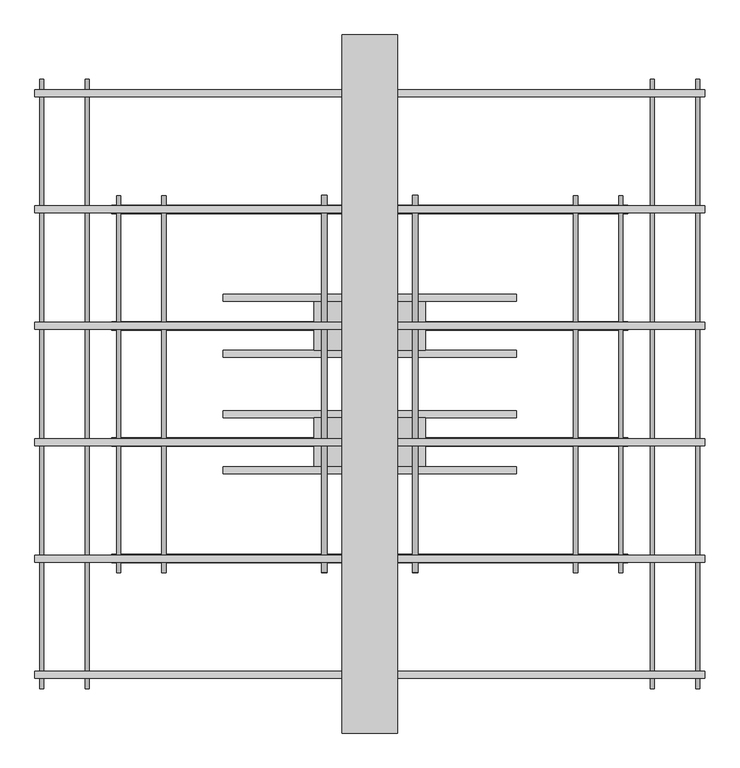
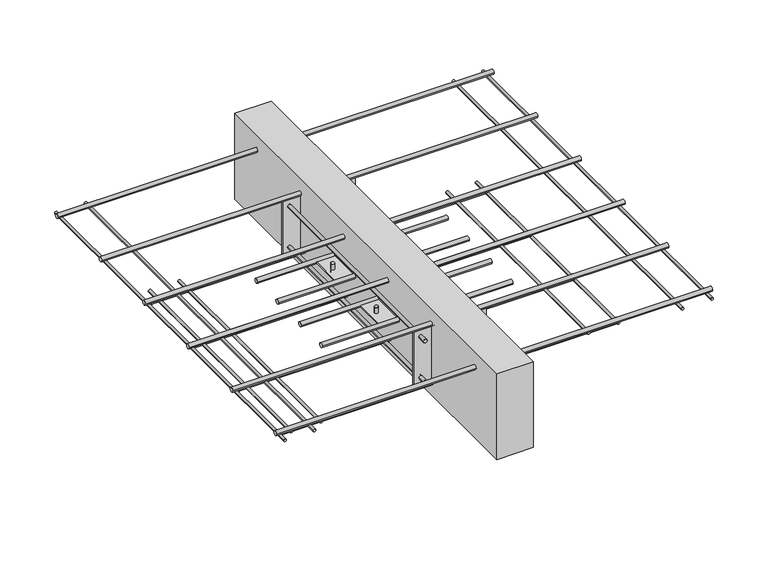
"""IFC4 building model written with IfcOpenShell, lengths in millimetres: fastener geometry, ACINOXplus_Typenreihe_K : KC+ S2."""

from ifc_helpers import new_model, si_unit, point, frame, frame_2d, origin, place, context, project, spatial, polyline, circle_curve, trimmed, segment, composite_curve, outline, extrude, source, transform, mapped, element, save
from ifc_brep_helpers import plane_surface, cylinder_surface, advanced_brep


def fastener_17bfd8a3(model_context):
    return source(origin(), model_context, "Body", "SolidModel", [
        extrude(outline(composite_curve([segment(trimmed(circle_curve(frame_2d((-123.3333333, -102.5)), 5.0), [point((-128.3333333, -102.5))], [point((-118.3333333, -102.5))], False, "CARTESIAN"), True, "CONTINUOUS"), segment(trimmed(circle_curve(frame_2d((-123.3333333, -102.5)), 5.0), [point((-118.3333333, -102.5))], [point((-128.3333333, -102.5))], False, "CARTESIAN"), True, "CONTINUOUS")], self_intersect=False)), frame((-210.0, 0.0, 0.0), z_axis=(1.0, 0.0, 0.0), x_axis=(0.0, 1.0, 0.0)), (0.0, 0.0, 1.0), 420.0),
        extrude(outline(composite_curve([segment(trimmed(circle_curve(frame_2d((-43.3333333, -102.5)), 5.0), [point((-48.3333333, -102.5))], [point((-38.3333333, -102.5))], False, "CARTESIAN"), True, "CONTINUOUS"), segment(trimmed(circle_curve(frame_2d((-43.3333333, -102.5)), 5.0), [point((-38.3333333, -102.5))], [point((-48.3333333, -102.5))], False, "CARTESIAN"), True, "CONTINUOUS")], self_intersect=False)), frame((-210.0, 0.0, 0.0), z_axis=(1.0, 0.0, 0.0), x_axis=(0.0, 1.0, 0.0)), (0.0, 0.0, 1.0), 420.0),
        advanced_brep(
        [(-69.0, -83.3333333, -87.5), (-61.0, -83.3333333, -87.5), (61.0, -83.3333333, -87.5), (69.0, -83.3333333, -87.5), (-69.0, -83.3333333, -117.5), (-61.0, -83.3333333, -117.5), (61.0, -83.3333333, -117.5), (69.0, -83.3333333, -117.5), (-69.0, -83.3333333, -101.0), (-61.0, -83.3333333, -101.0), (-61.0, -83.3333333, -104.0), (-69.0, -83.3333333, -104.0), (61.0, -83.3333333, -101.0), (69.0, -83.3333333, -101.0), (69.0, -83.3333333, -104.0), (61.0, -83.3333333, -104.0), (80.0, -48.3333333, -101.0), (-80.0, -48.3333333, -101.0), (-80.0, -118.3333333, -101.0), (80.0, -118.3333333, -101.0), (80.0, -48.3333333, -104.0), (80.0, -118.3333333, -104.0), (-80.0, -118.3333333, -104.0), (-80.0, -48.3333333, -104.0)],
        [
            (0, 1, circle_curve(frame((-65.0, -83.3333333, -87.5), z_axis=(0.0, 0.0, 1.0), x_axis=(1.0, 0.0, 0.0)), 4.0)),
            (1, 0, circle_curve(frame((-65.0, -83.3333333, -87.5), z_axis=(0.0, 0.0, 1.0), x_axis=(1.0, 0.0, 0.0)), 4.0)),
            (2, 3, circle_curve(frame((65.0, -83.3333333, -87.5), z_axis=(0.0, 0.0, 1.0), x_axis=(1.0, 0.0, 0.0)), 4.0)),
            (3, 2, circle_curve(frame((65.0, -83.3333333, -87.5), z_axis=(0.0, 0.0, 1.0), x_axis=(1.0, 0.0, 0.0)), 4.0)),
            (4, 5, circle_curve(frame((-65.0, -83.3333333, -117.5), z_axis=(0.0, 0.0, -1.0), x_axis=(1.0, 0.0, 0.0)), 4.0)),
            (5, 4, circle_curve(frame((-65.0, -83.3333333, -117.5), z_axis=(0.0, 0.0, -1.0), x_axis=(1.0, 0.0, 0.0)), 4.0)),
            (6, 7, circle_curve(frame((65.0, -83.3333333, -117.5), z_axis=(0.0, 0.0, -1.0), x_axis=(1.0, 0.0, 0.0)), 4.0)),
            (7, 6, circle_curve(frame((65.0, -83.3333333, -117.5), z_axis=(0.0, 0.0, -1.0), x_axis=(1.0, 0.0, 0.0)), 4.0)),
            (0, 8),
            (8, 9, circle_curve(frame((-65.0, -83.3333333, -101.0), z_axis=(0.0, 0.0, 1.0), x_axis=(1.0, 0.0, 0.0)), 4.0)),
            (9, 1),
            (5, 10),
            (10, 11, circle_curve(frame((-65.0, -83.3333333, -104.0), z_axis=(0.0, 0.0, -1.0), x_axis=(1.0, 0.0, 0.0)), 4.0)),
            (11, 4),
            (9, 8, circle_curve(frame((-65.0, -83.3333333, -101.0), z_axis=(0.0, 0.0, 1.0), x_axis=(1.0, 0.0, 0.0)), 4.0)),
            (11, 10, circle_curve(frame((-65.0, -83.3333333, -104.0), z_axis=(0.0, 0.0, -1.0), x_axis=(1.0, 0.0, 0.0)), 4.0)),
            (2, 12),
            (12, 13, circle_curve(frame((65.0, -83.3333333, -101.0), z_axis=(0.0, 0.0, 1.0), x_axis=(1.0, 0.0, 0.0)), 4.0)),
            (13, 3),
            (7, 14),
            (14, 15, circle_curve(frame((65.0, -83.3333333, -104.0), z_axis=(0.0, 0.0, -1.0), x_axis=(1.0, 0.0, 0.0)), 4.0)),
            (15, 6),
            (13, 12, circle_curve(frame((65.0, -83.3333333, -101.0), z_axis=(0.0, 0.0, 1.0), x_axis=(1.0, 0.0, 0.0)), 4.0)),
            (15, 14, circle_curve(frame((65.0, -83.3333333, -104.0), z_axis=(0.0, 0.0, -1.0), x_axis=(1.0, 0.0, 0.0)), 4.0)),
            (16, 17),
            (17, 18),
            (18, 19),
            (19, 16),
            (20, 21),
            (21, 22),
            (22, 23),
            (23, 20),
            (16, 20),
            (23, 17),
            (22, 18),
            (21, 19),
        ],
        [
            plane_surface(frame((-61.0, -83.3333333, -87.5), z_axis=(0.0, 0.0, 1.0), x_axis=(0.0, 1.0, 0.0))),
            plane_surface(frame((-61.0, -83.3333333, -117.5), z_axis=(0.0, 0.0, -1.0), x_axis=(0.0, -1.0, 0.0))),
            cylinder_surface(frame((-65.0, -83.3333333, -117.5), z_axis=(0.0, 0.0, 1.0), x_axis=(1.0, 0.0, 0.0)), 4.0),
            cylinder_surface(frame((65.0, -83.3333333, -102.5), z_axis=(0.0, 0.0, 1.0), x_axis=(1.0, 0.0, 0.0)), 4.0),
            plane_surface(frame((-80.0, -48.3333333, -101.0), z_axis=(0.0, 0.0, 1.0), x_axis=(-1.0, 0.0, 0.0))),
            plane_surface(frame((-80.0, -48.3333333, -104.0), z_axis=(0.0, 0.0, -1.0), x_axis=(1.0, 0.0, 0.0))),
            plane_surface(frame((80.0, -48.3333333, -101.0), z_axis=(0.0, 1.0, 0.0), x_axis=(0.0, 0.0, -1.0))),
            plane_surface(frame((-80.0, -48.3333333, -101.0), z_axis=(-1.0, 0.0, 0.0), x_axis=(0.0, 0.0, -1.0))),
            plane_surface(frame((-80.0, -118.3333333, -101.0), z_axis=(0.0, -1.0, 0.0), x_axis=(0.0, 0.0, -1.0))),
            plane_surface(frame((80.0, -118.3333333, -101.0), z_axis=(1.0, 0.0, 0.0), x_axis=(0.0, 0.0, -1.0))),
        ],
        [
            (0, [[1, 2]]),
            (0, [[3, 4]]),
            (1, [[5, 6]]),
            (1, [[7, 8]]),
            (2, [[-1, 9, 10, 11]]),
            (2, [[-6, 12, 13, 14]]),
            (2, [[-2, -11, 15, -9]]),
            (2, [[-5, -14, 16, -12]]),
            (3, [[-3, 17, 18, 19]]),
            (3, [[-8, 20, 21, 22]]),
            (3, [[-4, -19, 23, -17]]),
            (3, [[-7, -22, 24, -20]]),
            (4, [[25, 26, 27, 28], [-10, -15], [-18, -23]]),
            (5, [[29, 30, 31, 32], [-13, -16], [-21, -24]]),
            (6, [[-25, 33, -32, 34]]),
            (7, [[-26, -34, -31, 35]]),
            (8, [[-27, -35, -30, 36]]),
            (9, [[-28, -36, -29, -33]]),
        ],
    ),
        extrude(outline(composite_curve([segment(trimmed(circle_curve(frame_2d((43.3333333, -102.5)), 5.0), [point((38.3333333, -102.5))], [point((48.3333333, -102.5))], False, "CARTESIAN"), True, "CONTINUOUS"), segment(trimmed(circle_curve(frame_2d((43.3333333, -102.5)), 5.0), [point((48.3333333, -102.5))], [point((38.3333333, -102.5))], False, "CARTESIAN"), True, "CONTINUOUS")], self_intersect=False)), frame((-210.0, 0.0, 0.0), z_axis=(1.0, 0.0, 0.0), x_axis=(0.0, 1.0, 0.0)), (0.0, 0.0, 1.0), 420.0),
        extrude(outline(composite_curve([segment(trimmed(circle_curve(frame_2d((123.3333333, -102.5)), 5.0), [point((118.3333333, -102.5))], [point((128.3333333, -102.5))], False, "CARTESIAN"), True, "CONTINUOUS"), segment(trimmed(circle_curve(frame_2d((123.3333333, -102.5)), 5.0), [point((128.3333333, -102.5))], [point((118.3333333, -102.5))], False, "CARTESIAN"), True, "CONTINUOUS")], self_intersect=False)), frame((-210.0, 0.0, 0.0), z_axis=(1.0, 0.0, 0.0), x_axis=(0.0, 1.0, 0.0)), (0.0, 0.0, 1.0), 420.0),
        advanced_brep(
        [(-69.0, 83.3333333, -87.5), (-61.0, 83.3333333, -87.5), (61.0, 83.3333333, -87.5), (69.0, 83.3333333, -87.5), (-69.0, 83.3333333, -117.5), (-61.0, 83.3333333, -117.5), (61.0, 83.3333333, -117.5), (69.0, 83.3333333, -117.5), (-69.0, 83.3333333, -101.0), (-61.0, 83.3333333, -101.0), (-61.0, 83.3333333, -104.0), (-69.0, 83.3333333, -104.0), (61.0, 83.3333333, -101.0), (69.0, 83.3333333, -101.0), (69.0, 83.3333333, -104.0), (61.0, 83.3333333, -104.0), (80.0, 118.3333333, -101.0), (-80.0, 118.3333333, -101.0), (-80.0, 48.3333333, -101.0), (80.0, 48.3333333, -101.0), (80.0, 118.3333333, -104.0), (80.0, 48.3333333, -104.0), (-80.0, 48.3333333, -104.0), (-80.0, 118.3333333, -104.0)],
        [
            (0, 1, circle_curve(frame((-65.0, 83.3333333, -87.5), z_axis=(0.0, 0.0, 1.0), x_axis=(1.0, 0.0, 0.0)), 4.0)),
            (1, 0, circle_curve(frame((-65.0, 83.3333333, -87.5), z_axis=(0.0, 0.0, 1.0), x_axis=(1.0, 0.0, 0.0)), 4.0)),
            (2, 3, circle_curve(frame((65.0, 83.3333333, -87.5), z_axis=(0.0, 0.0, 1.0), x_axis=(1.0, 0.0, 0.0)), 4.0)),
            (3, 2, circle_curve(frame((65.0, 83.3333333, -87.5), z_axis=(0.0, 0.0, 1.0), x_axis=(1.0, 0.0, 0.0)), 4.0)),
            (4, 5, circle_curve(frame((-65.0, 83.3333333, -117.5), z_axis=(0.0, 0.0, -1.0), x_axis=(1.0, 0.0, 0.0)), 4.0)),
            (5, 4, circle_curve(frame((-65.0, 83.3333333, -117.5), z_axis=(0.0, 0.0, -1.0), x_axis=(1.0, 0.0, 0.0)), 4.0)),
            (6, 7, circle_curve(frame((65.0, 83.3333333, -117.5), z_axis=(0.0, 0.0, -1.0), x_axis=(1.0, 0.0, 0.0)), 4.0)),
            (7, 6, circle_curve(frame((65.0, 83.3333333, -117.5), z_axis=(0.0, 0.0, -1.0), x_axis=(1.0, 0.0, 0.0)), 4.0)),
            (0, 8),
            (8, 9, circle_curve(frame((-65.0, 83.3333333, -101.0), z_axis=(0.0, 0.0, 1.0), x_axis=(1.0, 0.0, 0.0)), 4.0)),
            (9, 1),
            (5, 10),
            (10, 11, circle_curve(frame((-65.0, 83.3333333, -104.0), z_axis=(0.0, 0.0, -1.0), x_axis=(1.0, 0.0, 0.0)), 4.0)),
            (11, 4),
            (9, 8, circle_curve(frame((-65.0, 83.3333333, -101.0), z_axis=(0.0, 0.0, 1.0), x_axis=(1.0, 0.0, 0.0)), 4.0)),
            (11, 10, circle_curve(frame((-65.0, 83.3333333, -104.0), z_axis=(0.0, 0.0, -1.0), x_axis=(1.0, 0.0, 0.0)), 4.0)),
            (2, 12),
            (12, 13, circle_curve(frame((65.0, 83.3333333, -101.0), z_axis=(0.0, 0.0, 1.0), x_axis=(1.0, 0.0, 0.0)), 4.0)),
            (13, 3),
            (7, 14),
            (14, 15, circle_curve(frame((65.0, 83.3333333, -104.0), z_axis=(0.0, 0.0, -1.0), x_axis=(1.0, 0.0, 0.0)), 4.0)),
            (15, 6),
            (13, 12, circle_curve(frame((65.0, 83.3333333, -101.0), z_axis=(0.0, 0.0, 1.0), x_axis=(1.0, 0.0, 0.0)), 4.0)),
            (15, 14, circle_curve(frame((65.0, 83.3333333, -104.0), z_axis=(0.0, 0.0, -1.0), x_axis=(1.0, 0.0, 0.0)), 4.0)),
            (16, 17),
            (17, 18),
            (18, 19),
            (19, 16),
            (20, 21),
            (21, 22),
            (22, 23),
            (23, 20),
            (16, 20),
            (23, 17),
            (22, 18),
            (21, 19),
        ],
        [
            plane_surface(frame((-61.0, 83.3333333, -87.5), z_axis=(0.0, 0.0, 1.0), x_axis=(0.0, 1.0, 0.0))),
            plane_surface(frame((-61.0, 83.3333333, -117.5), z_axis=(0.0, 0.0, -1.0), x_axis=(0.0, -1.0, 0.0))),
            cylinder_surface(frame((-65.0, 83.3333333, -117.5), z_axis=(0.0, 0.0, 1.0), x_axis=(1.0, 0.0, 0.0)), 4.0),
            cylinder_surface(frame((65.0, 83.3333333, -102.5), z_axis=(0.0, 0.0, 1.0), x_axis=(1.0, 0.0, 0.0)), 4.0),
            plane_surface(frame((-80.0, 118.3333333, -101.0), z_axis=(0.0, 0.0, 1.0), x_axis=(-1.0, 0.0, 0.0))),
            plane_surface(frame((-80.0, 118.3333333, -104.0), z_axis=(0.0, 0.0, -1.0), x_axis=(1.0, 0.0, 0.0))),
            plane_surface(frame((80.0, 118.3333333, -101.0), z_axis=(0.0, 1.0, 0.0), x_axis=(0.0, 0.0, -1.0))),
            plane_surface(frame((-80.0, 118.3333333, -101.0), z_axis=(-1.0, 0.0, 0.0), x_axis=(0.0, 0.0, -1.0))),
            plane_surface(frame((-80.0, 48.3333333, -101.0), z_axis=(0.0, -1.0, 0.0), x_axis=(0.0, 0.0, -1.0))),
            plane_surface(frame((80.0, 48.3333333, -101.0), z_axis=(1.0, 0.0, 0.0), x_axis=(0.0, 0.0, -1.0))),
        ],
        [
            (0, [[1, 2]]),
            (0, [[3, 4]]),
            (1, [[5, 6]]),
            (1, [[7, 8]]),
            (2, [[-1, 9, 10, 11]]),
            (2, [[-6, 12, 13, 14]]),
            (2, [[-2, -11, 15, -9]]),
            (2, [[-5, -14, 16, -12]]),
            (3, [[-3, 17, 18, 19]]),
            (3, [[-8, 20, 21, 22]]),
            (3, [[-4, -19, 23, -17]]),
            (3, [[-7, -22, 24, -20]]),
            (4, [[25, 26, 27, 28], [-10, -15], [-18, -23]]),
            (5, [[29, 30, 31, 32], [-13, -16], [-21, -24]]),
            (6, [[-25, 33, -32, 34]]),
            (7, [[-26, -34, -31, 35]]),
            (8, [[-27, -35, -30, 36]]),
            (9, [[-28, -36, -29, -33]]),
        ],
    ),
        extrude(outline(polyline([(40.0, 500.0), (40.0, -500.0), (-40.0, -500.0), (-40.0, 500.0), (40.0, 500.0)])), frame((0.0, 0.0, -200.0), z_axis=(0.0, 0.0, 1.0), x_axis=(1.0, 0.0, 0.0)), (0.0, 0.0, 1.0), 200.0),
        extrude(outline(polyline([(80.0, -248.5), (80.0, -251.5), (-80.0, -251.5), (-80.0, -248.5), (80.0, -248.5)])), frame((0.0, 0.0, -165.0), z_axis=(0.0, 0.0, 1.0), x_axis=(1.0, 0.0, 0.0)), (0.0, 0.0, 1.0), 125.0),
        extrude(outline(polyline([(80.0, 251.5), (80.0, 248.5), (-80.0, 248.5), (-80.0, 251.5), (80.0, 251.5)])), frame((0.0, 0.0, -165.0), z_axis=(0.0, 0.0, 1.0), x_axis=(1.0, 0.0, 0.0)), (0.0, 0.0, 1.0), 125.0),
        extrude(outline(composite_curve([segment(trimmed(circle_curve(frame_2d((-150.0, -65.0)), 4.0), [point((-150.0, -61.0))], [point((-150.0, -69.0))], False, "CARTESIAN"), True, "CONTINUOUS"), segment(trimmed(circle_curve(frame_2d((-150.0, -65.0)), 4.0), [point((-150.0, -69.0))], [point((-150.0, -61.0))], False, "CARTESIAN"), True, "CONTINUOUS")], self_intersect=False)), frame((0.0, -270.0, 0.0), z_axis=(0.0, 1.0, 0.0), x_axis=(0.0, 0.0, 1.0)), (0.0, 0.0, 1.0), 18.5),
        extrude(outline(composite_curve([segment(trimmed(circle_curve(frame_2d((-150.0, -65.0)), 4.0), [point((-150.0, -69.0))], [point((-150.0, -61.0))], False, "CARTESIAN"), True, "CONTINUOUS"), segment(trimmed(circle_curve(frame_2d((-150.0, -65.0)), 4.0), [point((-150.0, -61.0))], [point((-150.0, -69.0))], False, "CARTESIAN"), True, "CONTINUOUS")], self_intersect=False)), frame((0.0, -248.5, 0.0), z_axis=(0.0, 1.0, 0.0), x_axis=(0.0, 0.0, 1.0)), (0.0, 0.0, 1.0), 497.0),
        extrude(outline(composite_curve([segment(trimmed(circle_curve(frame_2d((-150.0, -65.0)), 4.0), [point((-150.0, -69.0))], [point((-150.0, -61.0))], False, "CARTESIAN"), True, "CONTINUOUS"), segment(trimmed(circle_curve(frame_2d((-150.0, -65.0)), 4.0), [point((-150.0, -61.0))], [point((-150.0, -69.0))], False, "CARTESIAN"), True, "CONTINUOUS")], self_intersect=False)), frame((0.0, 251.5, 0.0), z_axis=(0.0, 1.0, 0.0), x_axis=(0.0, 0.0, 1.0)), (0.0, 0.0, 1.0), 18.5),
        extrude(outline(composite_curve([segment(trimmed(circle_curve(frame_2d((-150.0, 65.0)), 4.0), [point((-150.0, 69.0))], [point((-150.0, 61.0))], False, "CARTESIAN"), True, "CONTINUOUS"), segment(trimmed(circle_curve(frame_2d((-150.0, 65.0)), 4.0), [point((-150.0, 61.0))], [point((-150.0, 69.0))], False, "CARTESIAN"), True, "CONTINUOUS")], self_intersect=False)), frame((0.0, -270.0, 0.0), z_axis=(0.0, 1.0, 0.0), x_axis=(0.0, 0.0, 1.0)), (0.0, 0.0, 1.0), 18.5),
        extrude(outline(composite_curve([segment(trimmed(circle_curve(frame_2d((-150.0, 65.0)), 4.0), [point((-150.0, 61.0))], [point((-150.0, 69.0))], False, "CARTESIAN"), True, "CONTINUOUS"), segment(trimmed(circle_curve(frame_2d((-150.0, 65.0)), 4.0), [point((-150.0, 69.0))], [point((-150.0, 61.0))], False, "CARTESIAN"), True, "CONTINUOUS")], self_intersect=False)), frame((0.0, -248.5, 0.0), z_axis=(0.0, 1.0, 0.0), x_axis=(0.0, 0.0, 1.0)), (0.0, 0.0, 1.0), 497.0),
        extrude(outline(composite_curve([segment(trimmed(circle_curve(frame_2d((-150.0, 65.0)), 4.0), [point((-150.0, 61.0))], [point((-150.0, 69.0))], False, "CARTESIAN"), True, "CONTINUOUS"), segment(trimmed(circle_curve(frame_2d((-150.0, 65.0)), 4.0), [point((-150.0, 69.0))], [point((-150.0, 61.0))], False, "CARTESIAN"), True, "CONTINUOUS")], self_intersect=False)), frame((0.0, 251.5, 0.0), z_axis=(0.0, 1.0, 0.0), x_axis=(0.0, 0.0, 1.0)), (0.0, 0.0, 1.0), 18.5),
        extrude(outline(composite_curve([segment(trimmed(circle_curve(frame_2d((-55.0, -65.0)), 4.0), [point((-55.0, -61.0))], [point((-55.0, -69.0))], False, "CARTESIAN"), True, "CONTINUOUS"), segment(trimmed(circle_curve(frame_2d((-55.0, -65.0)), 4.0), [point((-55.0, -69.0))], [point((-55.0, -61.0))], False, "CARTESIAN"), True, "CONTINUOUS")], self_intersect=False)), frame((0.0, -270.0, 0.0), z_axis=(0.0, 1.0, 0.0), x_axis=(0.0, 0.0, 1.0)), (0.0, 0.0, 1.0), 18.5),
        extrude(outline(composite_curve([segment(trimmed(circle_curve(frame_2d((-55.0, -65.0)), 4.0), [point((-55.0, -69.0))], [point((-55.0, -61.0))], False, "CARTESIAN"), True, "CONTINUOUS"), segment(trimmed(circle_curve(frame_2d((-55.0, -65.0)), 4.0), [point((-55.0, -61.0))], [point((-55.0, -69.0))], False, "CARTESIAN"), True, "CONTINUOUS")], self_intersect=False)), frame((0.0, -248.5, 0.0), z_axis=(0.0, 1.0, 0.0), x_axis=(0.0, 0.0, 1.0)), (0.0, 0.0, 1.0), 497.0),
        extrude(outline(composite_curve([segment(trimmed(circle_curve(frame_2d((-55.0, -65.0)), 4.0), [point((-55.0, -69.0))], [point((-55.0, -61.0))], False, "CARTESIAN"), True, "CONTINUOUS"), segment(trimmed(circle_curve(frame_2d((-55.0, -65.0)), 4.0), [point((-55.0, -61.0))], [point((-55.0, -69.0))], False, "CARTESIAN"), True, "CONTINUOUS")], self_intersect=False)), frame((0.0, 251.5, 0.0), z_axis=(0.0, 1.0, 0.0), x_axis=(0.0, 0.0, 1.0)), (0.0, 0.0, 1.0), 18.5),
        extrude(outline(composite_curve([segment(trimmed(circle_curve(frame_2d((-55.0, 65.0)), 4.0), [point((-55.0, 69.0))], [point((-55.0, 61.0))], False, "CARTESIAN"), True, "CONTINUOUS"), segment(trimmed(circle_curve(frame_2d((-55.0, 65.0)), 4.0), [point((-55.0, 61.0))], [point((-55.0, 69.0))], False, "CARTESIAN"), True, "CONTINUOUS")], self_intersect=False)), frame((0.0, -270.0, 0.0), z_axis=(0.0, 1.0, 0.0), x_axis=(0.0, 0.0, 1.0)), (0.0, 0.0, 1.0), 18.5),
        extrude(outline(composite_curve([segment(trimmed(circle_curve(frame_2d((-55.0, 65.0)), 4.0), [point((-55.0, 61.0))], [point((-55.0, 69.0))], False, "CARTESIAN"), True, "CONTINUOUS"), segment(trimmed(circle_curve(frame_2d((-55.0, 65.0)), 4.0), [point((-55.0, 69.0))], [point((-55.0, 61.0))], False, "CARTESIAN"), True, "CONTINUOUS")], self_intersect=False)), frame((0.0, -248.5, 0.0), z_axis=(0.0, 1.0, 0.0), x_axis=(0.0, 0.0, 1.0)), (0.0, 0.0, 1.0), 497.0),
        extrude(outline(composite_curve([segment(trimmed(circle_curve(frame_2d((-55.0, 65.0)), 4.0), [point((-55.0, 61.0))], [point((-55.0, 69.0))], False, "CARTESIAN"), True, "CONTINUOUS"), segment(trimmed(circle_curve(frame_2d((-55.0, 65.0)), 4.0), [point((-55.0, 69.0))], [point((-55.0, 61.0))], False, "CARTESIAN"), True, "CONTINUOUS")], self_intersect=False)), frame((0.0, 251.5, 0.0), z_axis=(0.0, 1.0, 0.0), x_axis=(0.0, 0.0, 1.0)), (0.0, 0.0, 1.0), 18.5),
        extrude(outline(composite_curve([segment(trimmed(circle_curve(frame_2d((83.3333333, -171.0)), 6.0), [point((77.3333333, -171.0))], [point((89.3333333, -171.0))], False, "CARTESIAN"), True, "CONTINUOUS"), segment(trimmed(circle_curve(frame_2d((83.3333333, -171.0)), 6.0), [point((89.3333333, -171.0))], [point((77.3333333, -171.0))], False, "CARTESIAN"), True, "CONTINUOUS")], self_intersect=False)), frame((-370.0, 0.0, 0.0), z_axis=(1.0, 0.0, 0.0), x_axis=(0.0, 1.0, 0.0)), (0.0, 0.0, 1.0), 740.0),
        extrude(outline(composite_curve([segment(trimmed(circle_curve(frame_2d((-83.3333333, -171.0)), 6.0), [point((-89.3333333, -171.0))], [point((-77.3333333, -171.0))], False, "CARTESIAN"), True, "CONTINUOUS"), segment(trimmed(circle_curve(frame_2d((-83.3333333, -171.0)), 6.0), [point((-77.3333333, -171.0))], [point((-89.3333333, -171.0))], False, "CARTESIAN"), True, "CONTINUOUS")], self_intersect=False)), frame((-370.0, 0.0, 0.0), z_axis=(1.0, 0.0, 0.0), x_axis=(0.0, 1.0, 0.0)), (0.0, 0.0, 1.0), 740.0),
        extrude(outline(composite_curve([segment(trimmed(circle_curve(frame_2d((250.0, -171.0)), 6.0), [point((244.0, -171.0))], [point((256.0, -171.0))], False, "CARTESIAN"), True, "CONTINUOUS"), segment(trimmed(circle_curve(frame_2d((250.0, -171.0)), 6.0), [point((256.0, -171.0))], [point((244.0, -171.0))], False, "CARTESIAN"), True, "CONTINUOUS")], self_intersect=False)), frame((-370.0, 0.0, 0.0), z_axis=(1.0, 0.0, 0.0), x_axis=(0.0, 1.0, 0.0)), (0.0, 0.0, 1.0), 740.0),
        extrude(outline(composite_curve([segment(trimmed(circle_curve(frame_2d((-250.0, -171.0)), 6.0), [point((-256.0, -171.0))], [point((-244.0, -171.0))], False, "CARTESIAN"), True, "CONTINUOUS"), segment(trimmed(circle_curve(frame_2d((-250.0, -171.0)), 6.0), [point((-244.0, -171.0))], [point((-256.0, -171.0))], False, "CARTESIAN"), True, "CONTINUOUS")], self_intersect=False)), frame((-370.0, 0.0, 0.0), z_axis=(1.0, 0.0, 0.0), x_axis=(0.0, 1.0, 0.0)), (0.0, 0.0, 1.0), 740.0),
        extrude(outline(composite_curve([segment(trimmed(circle_curve(frame_2d((83.3333333, -35.0)), 5.0), [point((78.3333333, -35.0))], [point((88.3333333, -35.0))], False, "CARTESIAN"), True, "CONTINUOUS"), segment(trimmed(circle_curve(frame_2d((83.3333333, -35.0)), 5.0), [point((88.3333333, -35.0))], [point((78.3333333, -35.0))], False, "CARTESIAN"), True, "CONTINUOUS")], self_intersect=False)), frame((-480.0, 0.0, 0.0), z_axis=(1.0, 0.0, 0.0), x_axis=(0.0, 1.0, 0.0)), (0.0, 0.0, 1.0), 960.0),
        extrude(outline(composite_curve([segment(trimmed(circle_curve(frame_2d((-83.3333333, -35.0)), 5.0), [point((-88.3333333, -35.0))], [point((-78.3333333, -35.0))], False, "CARTESIAN"), True, "CONTINUOUS"), segment(trimmed(circle_curve(frame_2d((-83.3333333, -35.0)), 5.0), [point((-78.3333333, -35.0))], [point((-88.3333333, -35.0))], False, "CARTESIAN"), True, "CONTINUOUS")], self_intersect=False)), frame((-480.0, 0.0, 0.0), z_axis=(1.0, 0.0, 0.0), x_axis=(0.0, 1.0, 0.0)), (0.0, 0.0, 1.0), 960.0),
        extrude(outline(composite_curve([segment(trimmed(circle_curve(frame_2d((250.0, -35.0)), 5.0), [point((245.0, -35.0))], [point((255.0, -35.0))], False, "CARTESIAN"), True, "CONTINUOUS"), segment(trimmed(circle_curve(frame_2d((250.0, -35.0)), 5.0), [point((255.0, -35.0))], [point((245.0, -35.0))], False, "CARTESIAN"), True, "CONTINUOUS")], self_intersect=False)), frame((-480.0, 0.0, 0.0), z_axis=(1.0, 0.0, 0.0), x_axis=(0.0, 1.0, 0.0)), (0.0, 0.0, 1.0), 960.0),
        extrude(outline(composite_curve([segment(trimmed(circle_curve(frame_2d((416.6666667, -35.0)), 5.0), [point((411.6666667, -35.0))], [point((421.6666667, -35.0))], False, "CARTESIAN"), True, "CONTINUOUS"), segment(trimmed(circle_curve(frame_2d((416.6666667, -35.0)), 5.0), [point((421.6666667, -35.0))], [point((411.6666667, -35.0))], False, "CARTESIAN"), True, "CONTINUOUS")], self_intersect=False)), frame((-480.0, 0.0, 0.0), z_axis=(1.0, 0.0, 0.0), x_axis=(0.0, 1.0, 0.0)), (0.0, 0.0, 1.0), 960.0),
        extrude(outline(composite_curve([segment(trimmed(circle_curve(frame_2d((-250.0, -35.0)), 5.0), [point((-255.0, -35.0))], [point((-245.0, -35.0))], False, "CARTESIAN"), True, "CONTINUOUS"), segment(trimmed(circle_curve(frame_2d((-250.0, -35.0)), 5.0), [point((-245.0, -35.0))], [point((-255.0, -35.0))], False, "CARTESIAN"), True, "CONTINUOUS")], self_intersect=False)), frame((-480.0, 0.0, 0.0), z_axis=(1.0, 0.0, 0.0), x_axis=(0.0, 1.0, 0.0)), (0.0, 0.0, 1.0), 960.0),
        extrude(outline(composite_curve([segment(trimmed(circle_curve(frame_2d((-416.6666667, -35.0)), 5.0), [point((-421.6666667, -35.0))], [point((-411.6666667, -35.0))], False, "CARTESIAN"), True, "CONTINUOUS"), segment(trimmed(circle_curve(frame_2d((-416.6666667, -35.0)), 5.0), [point((-411.6666667, -35.0))], [point((-421.6666667, -35.0))], False, "CARTESIAN"), True, "CONTINUOUS")], self_intersect=False)), frame((-480.0, 0.0, 0.0), z_axis=(1.0, 0.0, 0.0), x_axis=(0.0, 1.0, 0.0)), (0.0, 0.0, 1.0), 960.0),
        extrude(outline(composite_curve([segment(trimmed(circle_curve(frame_2d((-162.0, -360.0)), 3.0), [point((-162.0, -357.0))], [point((-162.0, -363.0))], False, "CARTESIAN"), True, "CONTINUOUS"), segment(trimmed(circle_curve(frame_2d((-162.0, -360.0)), 3.0), [point((-162.0, -363.0))], [point((-162.0, -357.0))], False, "CARTESIAN"), True, "CONTINUOUS")], self_intersect=False)), frame((0.0, -270.0, 0.0), z_axis=(0.0, 1.0, 0.0), x_axis=(0.0, 0.0, 1.0)), (0.0, 0.0, 1.0), 540.0),
        extrude(outline(composite_curve([segment(trimmed(circle_curve(frame_2d((-162.0, -295.0)), 3.0), [point((-162.0, -292.0))], [point((-162.0, -298.0))], False, "CARTESIAN"), True, "CONTINUOUS"), segment(trimmed(circle_curve(frame_2d((-162.0, -295.0)), 3.0), [point((-162.0, -298.0))], [point((-162.0, -292.0))], False, "CARTESIAN"), True, "CONTINUOUS")], self_intersect=False)), frame((0.0, -270.0, 0.0), z_axis=(0.0, 1.0, 0.0), x_axis=(0.0, 0.0, 1.0)), (0.0, 0.0, 1.0), 540.0),
        extrude(outline(composite_curve([segment(trimmed(circle_curve(frame_2d((-162.0, 295.0)), 3.0), [point((-162.0, 298.0))], [point((-162.0, 292.0))], False, "CARTESIAN"), True, "CONTINUOUS"), segment(trimmed(circle_curve(frame_2d((-162.0, 295.0)), 3.0), [point((-162.0, 292.0))], [point((-162.0, 298.0))], False, "CARTESIAN"), True, "CONTINUOUS")], self_intersect=False)), frame((0.0, -270.0, 0.0), z_axis=(0.0, 1.0, 0.0), x_axis=(0.0, 0.0, 1.0)), (0.0, 0.0, 1.0), 540.0),
        extrude(outline(composite_curve([segment(trimmed(circle_curve(frame_2d((-162.0, 360.0)), 3.0), [point((-162.0, 363.0))], [point((-162.0, 357.0))], False, "CARTESIAN"), True, "CONTINUOUS"), segment(trimmed(circle_curve(frame_2d((-162.0, 360.0)), 3.0), [point((-162.0, 357.0))], [point((-162.0, 363.0))], False, "CARTESIAN"), True, "CONTINUOUS")], self_intersect=False)), frame((0.0, -270.0, 0.0), z_axis=(0.0, 1.0, 0.0), x_axis=(0.0, 0.0, 1.0)), (0.0, 0.0, 1.0), 540.0),
        extrude(outline(composite_curve([segment(trimmed(circle_curve(frame_2d((-43.0, 405.0)), 3.0), [point((-43.0, 408.0))], [point((-43.0, 402.0))], False, "CARTESIAN"), True, "CONTINUOUS"), segment(trimmed(circle_curve(frame_2d((-43.0, 405.0)), 3.0), [point((-43.0, 402.0))], [point((-43.0, 408.0))], False, "CARTESIAN"), True, "CONTINUOUS")], self_intersect=False)), frame((0.0, -436.6666667, 0.0), z_axis=(0.0, 1.0, 0.0), x_axis=(0.0, 0.0, 1.0)), (0.0, 0.0, 1.0), 873.3333333),
        extrude(outline(composite_curve([segment(trimmed(circle_curve(frame_2d((-43.0, 470.0)), 3.0), [point((-43.0, 473.0))], [point((-43.0, 467.0))], False, "CARTESIAN"), True, "CONTINUOUS"), segment(trimmed(circle_curve(frame_2d((-43.0, 470.0)), 3.0), [point((-43.0, 467.0))], [point((-43.0, 473.0))], False, "CARTESIAN"), True, "CONTINUOUS")], self_intersect=False)), frame((0.0, -436.6666667, 0.0), z_axis=(0.0, 1.0, 0.0), x_axis=(0.0, 0.0, 1.0)), (0.0, 0.0, 1.0), 873.3333333),
        extrude(outline(composite_curve([segment(trimmed(circle_curve(frame_2d((-43.0, -470.0)), 3.0), [point((-43.0, -467.0))], [point((-43.0, -473.0))], False, "CARTESIAN"), True, "CONTINUOUS"), segment(trimmed(circle_curve(frame_2d((-43.0, -470.0)), 3.0), [point((-43.0, -473.0))], [point((-43.0, -467.0))], False, "CARTESIAN"), True, "CONTINUOUS")], self_intersect=False)), frame((0.0, -436.6666667, 0.0), z_axis=(0.0, 1.0, 0.0), x_axis=(0.0, 0.0, 1.0)), (0.0, 0.0, 1.0), 873.3333333),
        extrude(outline(composite_curve([segment(trimmed(circle_curve(frame_2d((-43.0, -405.0)), 3.0), [point((-43.0, -402.0))], [point((-43.0, -408.0))], False, "CARTESIAN"), True, "CONTINUOUS"), segment(trimmed(circle_curve(frame_2d((-43.0, -405.0)), 3.0), [point((-43.0, -408.0))], [point((-43.0, -402.0))], False, "CARTESIAN"), True, "CONTINUOUS")], self_intersect=False)), frame((0.0, -436.6666667, 0.0), z_axis=(0.0, 1.0, 0.0), x_axis=(0.0, 0.0, 1.0)), (0.0, 0.0, 1.0), 873.3333333),
    ])


if __name__ == "__main__":
    model = new_model("IFC4")
    model_context = context("Model", 3, world=origin())
    ifc_project = project(units=[si_unit("LENGTHUNIT", "METRE", prefix="MILLI")], contexts=[model_context])
    site = spatial("IfcSite", under=ifc_project)
    building = spatial("IfcBuilding", under=site)
    placement = place(None, origin())
    fastener_shape = fastener_17bfd8a3(model_context)
    element("IfcFastener", 1, ObjectType="ACINOXplus_Typenreihe_K : KC+ S2", at=placement, inside=building, context=model_context, shape_type="MappedRepresentation", body=[
        mapped(fastener_shape, transform((0.0, 0.0, 0.0), x_axis=(1.0, 0.0, 0.0), y_axis=(0.0, 1.0, 0.0), z_axis=(0.0, 0.0, 1.0))),
    ])
    save(model, "model.ifc")
